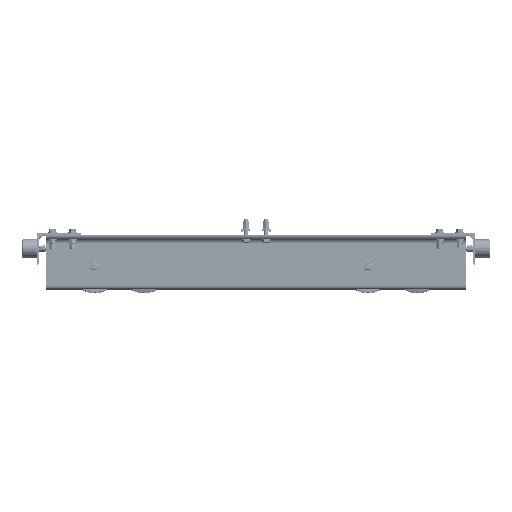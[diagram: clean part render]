
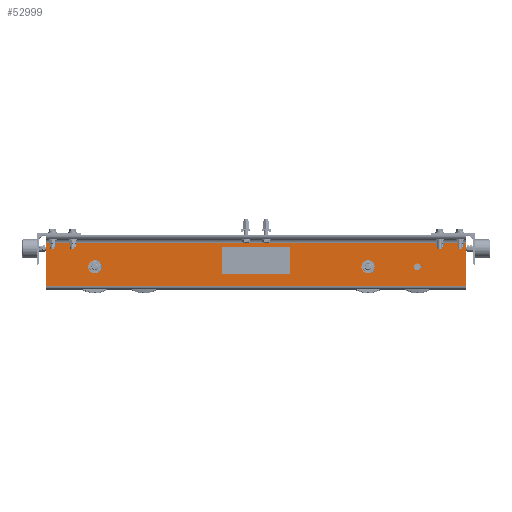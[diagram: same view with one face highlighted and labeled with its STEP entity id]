
A CAD part, top view. The second image highlights one B-rep face of the part: STEP entity #52999.
In plain terms, the highlighted planar face has unit normal (0, 0, 1) as drawn and (0, 0, -1) by its records, which use the part's own axes.
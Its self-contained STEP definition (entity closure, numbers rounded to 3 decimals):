
#72 = DIRECTION ( 'NONE',  ( 0., -1., 0. ) ) ;
#593 = DIRECTION ( 'NONE',  ( 0., -1., 0. ) ) ;
#659 = VERTEX_POINT ( 'NONE', #105259 ) ;
#1455 = DIRECTION ( 'NONE',  ( 0., 0., 1. ) ) ;
#2744 = EDGE_CURVE ( 'NONE', #8990, #79561, #7160, .T. ) ;
#4110 = EDGE_CURVE ( 'NONE', #26905, #659, #38636, .T. ) ;
#7160 = CIRCLE ( 'NONE', #9148, 9.588 ) ;
#8957 = CARTESIAN_POINT ( 'NONE',  ( -596.9, -22.225, -44.45 ) ) ;
#8990 = VERTEX_POINT ( 'NONE', #118732 ) ;
#9148 = AXIS2_PLACEMENT_3D ( 'NONE', #94170, #45456, #16350 ) ;
#9543 = ORIENTED_EDGE ( 'NONE', *, *, #57125, .F. ) ;
#11991 = FACE_OUTER_BOUND ( 'NONE', #41245, .T. ) ;
#12259 = CIRCLE ( 'NONE', #73881, 9.588 ) ;
#14155 = DIRECTION ( 'NONE',  ( 0., 0., 1. ) ) ;
#15625 = ORIENTED_EDGE ( 'NONE', *, *, #26316, .T. ) ;
#16350 = DIRECTION ( 'NONE',  ( 0., 1., 0. ) ) ;
#17388 = CARTESIAN_POINT ( 'NONE',  ( -307.911, -88.9, -44.45 ) ) ;
#18095 = AXIS2_PLACEMENT_3D ( 'NONE', #62352, #43077, #103414 ) ;
#22535 = DIRECTION ( 'NONE',  ( 0., 1., 0. ) ) ;
#22627 = VERTEX_POINT ( 'NONE', #77855 ) ;
#22693 = EDGE_CURVE ( 'NONE', #67743, #35729, #12259, .T. ) ;
#25751 = DIRECTION ( 'NONE',  ( 1., 0., 0. ) ) ;
#26316 = EDGE_CURVE ( 'NONE', #26905, #113299, #115818, .T. ) ;
#26338 = CIRCLE ( 'NONE', #18095, 9.588 ) ;
#26905 = VERTEX_POINT ( 'NONE', #8957 ) ;
#27642 = DIRECTION ( 'NONE',  ( 0., 1., 0. ) ) ;
#29615 = CIRCLE ( 'NONE', #95412, 9.588 ) ;
#30358 = CARTESIAN_POINT ( 'NONE',  ( 457.2, -88.9, -44.45 ) ) ;
#30518 = ORIENTED_EDGE ( 'NONE', *, *, #4110, .F. ) ;
#32345 = ORIENTED_EDGE ( 'NONE', *, *, #121981, .T. ) ;
#32914 = EDGE_CURVE ( 'NONE', #102440, #83905, #118211, .T. ) ;
#34948 = EDGE_CURVE ( 'NONE', #35729, #67743, #26338, .T. ) ;
#34954 = DIRECTION ( 'NONE',  ( 0., 1., 0. ) ) ;
#35729 = VERTEX_POINT ( 'NONE', #17388 ) ;
#38636 = LINE ( 'NONE', #88613, #106216 ) ;
#39839 = FACE_BOUND ( 'NONE', #127182, .T. ) ;
#41245 = EDGE_LOOP ( 'NONE', ( #42022, #9543, #30518, #15625 ) ) ;
#42022 = ORIENTED_EDGE ( 'NONE', *, *, #116798, .T. ) ;
#43077 = DIRECTION ( 'NONE',  ( 0., 0., 1. ) ) ;
#43580 = AXIS2_PLACEMENT_3D ( 'NONE', #73712, #64194, #91741 ) ;
#45456 = DIRECTION ( 'NONE',  ( 0., 0., 1. ) ) ;
#47159 = LINE ( 'NONE', #126156, #53265 ) ;
#50117 = CARTESIAN_POINT ( 'NONE',  ( -327.089, -88.9, -44.45 ) ) ;
#51005 = CARTESIAN_POINT ( 'NONE',  ( -447.612, -88.9, -44.45 ) ) ;
#51394 = PLANE ( 'NONE',  #43580 ) ;
#51992 = ORIENTED_EDGE ( 'NONE', *, *, #2744, .T. ) ;
#52999 = ADVANCED_FACE ( 'NONE', ( #69930, #108547, #39839, #11991 ), #51394, .F. ) ;
#53265 = VECTOR ( 'NONE', #72, 1000. ) ;
#54284 = VECTOR ( 'NONE', #88451, 1000. ) ;
#54301 = DIRECTION ( 'NONE',  ( 0., 0., 1. ) ) ;
#56715 = CARTESIAN_POINT ( 'NONE',  ( -457.2, -88.9, -44.45 ) ) ;
#57125 = EDGE_CURVE ( 'NONE', #659, #22627, #96942, .T. ) ;
#62352 = CARTESIAN_POINT ( 'NONE',  ( -317.5, -88.9, -44.45 ) ) ;
#63419 = EDGE_CURVE ( 'NONE', #79561, #8990, #86709, .T. ) ;
#64194 = DIRECTION ( 'NONE',  ( 0., 0., 1. ) ) ;
#65506 = ORIENTED_EDGE ( 'NONE', *, *, #22693, .T. ) ;
#67402 = CARTESIAN_POINT ( 'NONE',  ( 466.788, -88.9, -44.45 ) ) ;
#67743 = VERTEX_POINT ( 'NONE', #50117 ) ;
#69930 = FACE_BOUND ( 'NONE', #122662, .T. ) ;
#70215 = DIRECTION ( 'NONE',  ( 0., 1., 0. ) ) ;
#72069 = CARTESIAN_POINT ( 'NONE',  ( -317.5, -88.9, -44.45 ) ) ;
#73712 = CARTESIAN_POINT ( 'NONE',  ( -596.9, -142.88, -44.45 ) ) ;
#73881 = AXIS2_PLACEMENT_3D ( 'NONE', #72069, #14155, #22535 ) ;
#74172 = VECTOR ( 'NONE', #25751, 1000. ) ;
#77855 = CARTESIAN_POINT ( 'NONE',  ( 596.9, -142.88, -44.45 ) ) ;
#79561 = VERTEX_POINT ( 'NONE', #67402 ) ;
#83905 = VERTEX_POINT ( 'NONE', #51005 ) ;
#86709 = CIRCLE ( 'NONE', #88743, 9.588 ) ;
#88451 = DIRECTION ( 'NONE',  ( 1., 0., 0. ) ) ;
#88613 = CARTESIAN_POINT ( 'NONE',  ( -596.9, -142.88, -44.45 ) ) ;
#88743 = AXIS2_PLACEMENT_3D ( 'NONE', #30358, #1455, #70215 ) ;
#91741 = DIRECTION ( 'NONE',  ( 0., 1., 0. ) ) ;
#94170 = CARTESIAN_POINT ( 'NONE',  ( 457.2, -88.9, -44.45 ) ) ;
#95412 = AXIS2_PLACEMENT_3D ( 'NONE', #105020, #54301, #34954 ) ;
#96942 = LINE ( 'NONE', #105981, #54284 ) ;
#97635 = AXIS2_PLACEMENT_3D ( 'NONE', #56715, #116384, #27642 ) ;
#98171 = CARTESIAN_POINT ( 'NONE',  ( -466.789, -88.9, -44.45 ) ) ;
#102023 = ORIENTED_EDGE ( 'NONE', *, *, #34948, .T. ) ;
#102440 = VERTEX_POINT ( 'NONE', #98171 ) ;
#103414 = DIRECTION ( 'NONE',  ( 0., 1., 0. ) ) ;
#105020 = CARTESIAN_POINT ( 'NONE',  ( -457.2, -88.9, -44.45 ) ) ;
#105259 = CARTESIAN_POINT ( 'NONE',  ( -596.9, -142.88, -44.45 ) ) ;
#105981 = CARTESIAN_POINT ( 'NONE',  ( -596.9, -142.88, -44.45 ) ) ;
#106216 = VECTOR ( 'NONE', #593, 1000. ) ;
#107806 = ORIENTED_EDGE ( 'NONE', *, *, #32914, .T. ) ;
#108547 = FACE_BOUND ( 'NONE', #123728, .T. ) ;
#108562 = ORIENTED_EDGE ( 'NONE', *, *, #63419, .T. ) ;
#113299 = VERTEX_POINT ( 'NONE', #120018 ) ;
#113913 = CARTESIAN_POINT ( 'NONE',  ( -596.9, -22.225, -44.45 ) ) ;
#115818 = LINE ( 'NONE', #113913, #74172 ) ;
#116384 = DIRECTION ( 'NONE',  ( 0., 0., 1. ) ) ;
#116798 = EDGE_CURVE ( 'NONE', #113299, #22627, #47159, .T. ) ;
#118211 = CIRCLE ( 'NONE', #97635, 9.588 ) ;
#118732 = CARTESIAN_POINT ( 'NONE',  ( 447.611, -88.9, -44.45 ) ) ;
#120018 = CARTESIAN_POINT ( 'NONE',  ( 596.9, -22.225, -44.45 ) ) ;
#121981 = EDGE_CURVE ( 'NONE', #83905, #102440, #29615, .T. ) ;
#122662 = EDGE_LOOP ( 'NONE', ( #51992, #108562 ) ) ;
#123728 = EDGE_LOOP ( 'NONE', ( #65506, #102023 ) ) ;
#126156 = CARTESIAN_POINT ( 'NONE',  ( 596.9, -142.88, -44.45 ) ) ;
#127182 = EDGE_LOOP ( 'NONE', ( #107806, #32345 ) ) ;
